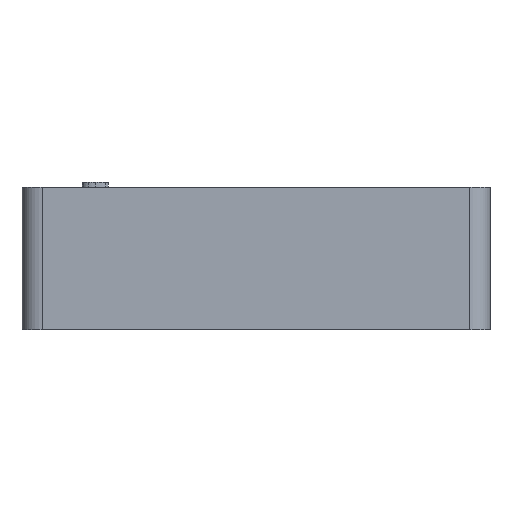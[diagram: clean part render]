
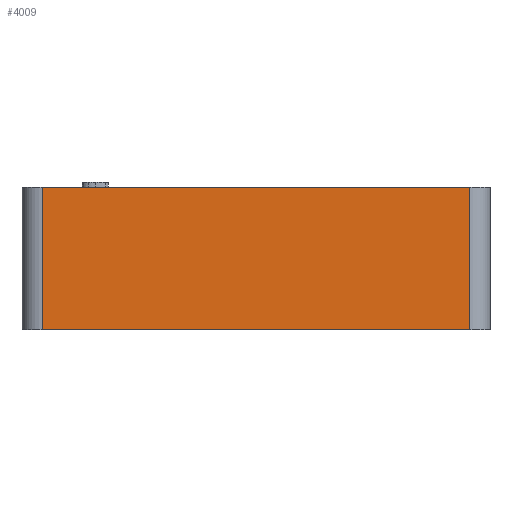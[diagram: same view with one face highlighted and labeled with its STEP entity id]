
A CAD part, left-side view. The second image highlights one B-rep face of the part: STEP entity #4009.
In plain terms, the highlighted planar face has unit normal (-1, 0, 0).
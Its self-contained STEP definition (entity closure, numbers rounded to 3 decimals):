
#62 = PLANE('',#63);
#63 = AXIS2_PLACEMENT_3D('',#64,#65,#66);
#64 = CARTESIAN_POINT('',(0.,0.,0.));
#65 = DIRECTION('',(0.,0.,1.));
#66 = DIRECTION('',(1.,0.,-0.));
#90 = CYLINDRICAL_SURFACE('',#91,2.);
#91 = AXIS2_PLACEMENT_3D('',#92,#93,#94);
#92 = CARTESIAN_POINT('',(-15.,-21.,0.));
#93 = DIRECTION('',(0.,0.,1.));
#94 = DIRECTION('',(0.,-1.,0.));
#118 = PLANE('',#119);
#119 = AXIS2_PLACEMENT_3D('',#120,#121,#122);
#120 = CARTESIAN_POINT('',(0.,0.,14.));
#121 = DIRECTION('',(0.,0.,1.));
#122 = DIRECTION('',(1.,0.,-0.));
#482 = VERTEX_POINT('',#483);
#483 = CARTESIAN_POINT('',(-17.,21.,0.));
#498 = CYLINDRICAL_SURFACE('',#499,2.);
#499 = AXIS2_PLACEMENT_3D('',#500,#501,#502);
#500 = CARTESIAN_POINT('',(-15.,21.,0.));
#501 = DIRECTION('',(0.,0.,1.));
#502 = DIRECTION('',(-0.,1.,0.));
#510 = EDGE_CURVE('',#482,#511,#513,.T.);
#511 = VERTEX_POINT('',#512);
#512 = CARTESIAN_POINT('',(-17.,-21.,0.));
#513 = SURFACE_CURVE('',#514,(#518,#525),.PCURVE_S1.);
#514 = LINE('',#515,#516);
#515 = CARTESIAN_POINT('',(-17.,23.,0.));
#516 = VECTOR('',#517,1.);
#517 = DIRECTION('',(0.,-1.,0.));
#518 = PCURVE('',#62,#519);
#519 = DEFINITIONAL_REPRESENTATION('',(#520),#524);
#520 = LINE('',#521,#522);
#521 = CARTESIAN_POINT('',(-17.,23.));
#522 = VECTOR('',#523,1.);
#523 = DIRECTION('',(0.,-1.));
#524 = ( GEOMETRIC_REPRESENTATION_CONTEXT(2) 
PARAMETRIC_REPRESENTATION_CONTEXT() REPRESENTATION_CONTEXT('2D SPACE',''
  ) );
#525 = PCURVE('',#526,#531);
#526 = PLANE('',#527);
#527 = AXIS2_PLACEMENT_3D('',#528,#529,#530);
#528 = CARTESIAN_POINT('',(-17.,23.,0.));
#529 = DIRECTION('',(1.,0.,-0.));
#530 = DIRECTION('',(0.,-1.,0.));
#531 = DEFINITIONAL_REPRESENTATION('',(#532),#536);
#532 = LINE('',#533,#534);
#533 = CARTESIAN_POINT('',(0.,0.));
#534 = VECTOR('',#535,1.);
#535 = DIRECTION('',(1.,0.));
#536 = ( GEOMETRIC_REPRESENTATION_CONTEXT(2) 
PARAMETRIC_REPRESENTATION_CONTEXT() REPRESENTATION_CONTEXT('2D SPACE',''
  ) );
#630 = EDGE_CURVE('',#511,#631,#633,.T.);
#631 = VERTEX_POINT('',#632);
#632 = CARTESIAN_POINT('',(-17.,-21.,14.));
#633 = SURFACE_CURVE('',#634,(#638,#645),.PCURVE_S1.);
#634 = LINE('',#635,#636);
#635 = CARTESIAN_POINT('',(-17.,-21.,0.));
#636 = VECTOR('',#637,1.);
#637 = DIRECTION('',(0.,0.,1.));
#638 = PCURVE('',#90,#639);
#639 = DEFINITIONAL_REPRESENTATION('',(#640),#644);
#640 = LINE('',#641,#642);
#641 = CARTESIAN_POINT('',(-1.571,0.));
#642 = VECTOR('',#643,1.);
#643 = DIRECTION('',(-0.,1.));
#644 = ( GEOMETRIC_REPRESENTATION_CONTEXT(2) 
PARAMETRIC_REPRESENTATION_CONTEXT() REPRESENTATION_CONTEXT('2D SPACE',''
  ) );
#645 = PCURVE('',#526,#646);
#646 = DEFINITIONAL_REPRESENTATION('',(#647),#651);
#647 = LINE('',#648,#649);
#648 = CARTESIAN_POINT('',(44.,0.));
#649 = VECTOR('',#650,1.);
#650 = DIRECTION('',(0.,-1.));
#651 = ( GEOMETRIC_REPRESENTATION_CONTEXT(2) 
PARAMETRIC_REPRESENTATION_CONTEXT() REPRESENTATION_CONTEXT('2D SPACE',''
  ) );
#779 = VERTEX_POINT('',#780);
#780 = CARTESIAN_POINT('',(-17.,21.,14.));
#802 = EDGE_CURVE('',#779,#631,#803,.T.);
#803 = SURFACE_CURVE('',#804,(#808,#815),.PCURVE_S1.);
#804 = LINE('',#805,#806);
#805 = CARTESIAN_POINT('',(-17.,23.,14.));
#806 = VECTOR('',#807,1.);
#807 = DIRECTION('',(0.,-1.,0.));
#808 = PCURVE('',#118,#809);
#809 = DEFINITIONAL_REPRESENTATION('',(#810),#814);
#810 = LINE('',#811,#812);
#811 = CARTESIAN_POINT('',(-17.,23.));
#812 = VECTOR('',#813,1.);
#813 = DIRECTION('',(0.,-1.));
#814 = ( GEOMETRIC_REPRESENTATION_CONTEXT(2) 
PARAMETRIC_REPRESENTATION_CONTEXT() REPRESENTATION_CONTEXT('2D SPACE',''
  ) );
#815 = PCURVE('',#526,#816);
#816 = DEFINITIONAL_REPRESENTATION('',(#817),#821);
#817 = LINE('',#818,#819);
#818 = CARTESIAN_POINT('',(0.,-14.));
#819 = VECTOR('',#820,1.);
#820 = DIRECTION('',(1.,0.));
#821 = ( GEOMETRIC_REPRESENTATION_CONTEXT(2) 
PARAMETRIC_REPRESENTATION_CONTEXT() REPRESENTATION_CONTEXT('2D SPACE',''
  ) );
#4009 = ADVANCED_FACE('',(#4010),#526,.F.);
#4010 = FACE_BOUND('',#4011,.F.);
#4011 = EDGE_LOOP('',(#4012,#4013,#4034,#4035));
#4012 = ORIENTED_EDGE('',*,*,#510,.F.);
#4013 = ORIENTED_EDGE('',*,*,#4014,.T.);
#4014 = EDGE_CURVE('',#482,#779,#4015,.T.);
#4015 = SURFACE_CURVE('',#4016,(#4020,#4027),.PCURVE_S1.);
#4016 = LINE('',#4017,#4018);
#4017 = CARTESIAN_POINT('',(-17.,21.,0.));
#4018 = VECTOR('',#4019,1.);
#4019 = DIRECTION('',(0.,0.,1.));
#4020 = PCURVE('',#526,#4021);
#4021 = DEFINITIONAL_REPRESENTATION('',(#4022),#4026);
#4022 = LINE('',#4023,#4024);
#4023 = CARTESIAN_POINT('',(2.,0.));
#4024 = VECTOR('',#4025,1.);
#4025 = DIRECTION('',(0.,-1.));
#4026 = ( GEOMETRIC_REPRESENTATION_CONTEXT(2) 
PARAMETRIC_REPRESENTATION_CONTEXT() REPRESENTATION_CONTEXT('2D SPACE',''
  ) );
#4027 = PCURVE('',#498,#4028);
#4028 = DEFINITIONAL_REPRESENTATION('',(#4029),#4033);
#4029 = LINE('',#4030,#4031);
#4030 = CARTESIAN_POINT('',(1.571,0.));
#4031 = VECTOR('',#4032,1.);
#4032 = DIRECTION('',(0.,1.));
#4033 = ( GEOMETRIC_REPRESENTATION_CONTEXT(2) 
PARAMETRIC_REPRESENTATION_CONTEXT() REPRESENTATION_CONTEXT('2D SPACE',''
  ) );
#4034 = ORIENTED_EDGE('',*,*,#802,.T.);
#4035 = ORIENTED_EDGE('',*,*,#630,.F.);
